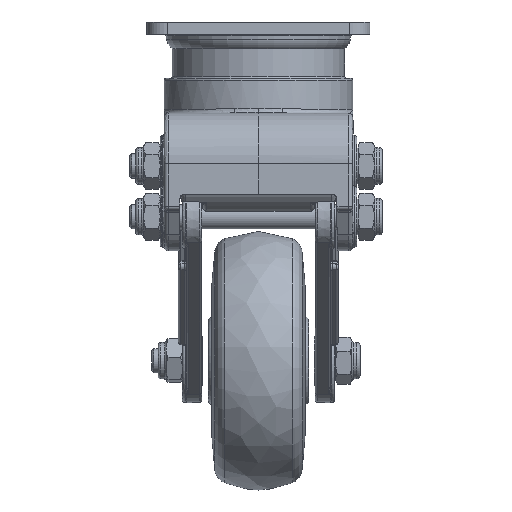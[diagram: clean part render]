
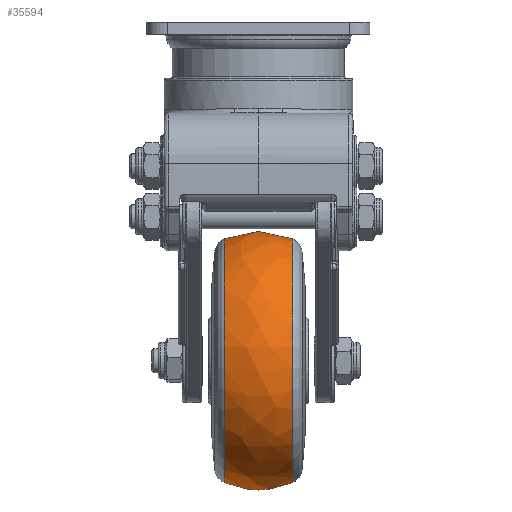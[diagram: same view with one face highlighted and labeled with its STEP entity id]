
A CAD part, left-side view. The second image highlights one B-rep face of the part: STEP entity #35594.
In plain terms, the highlighted free-form (B-spline) face has degree [2, 2] with [3, 9] control points.
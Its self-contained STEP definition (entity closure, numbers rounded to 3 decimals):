
#14=(
BOUNDED_SURFACE()
B_SPLINE_SURFACE(2,2,((#59060,#59061,#59062,#59063,#59064,#59065,#59066,
#59067,#59068),(#59069,#59070,#59071,#59072,#59073,#59074,#59075,#59076,
#59077),(#59078,#59079,#59080,#59081,#59082,#59083,#59084,#59085,#59086)),
 .UNSPECIFIED.,.F.,.T.,.F.)
B_SPLINE_SURFACE_WITH_KNOTS((3,3),(3,2,2,2,3),(-0.438,0.438),
(-3.142,-1.571,0.,1.571,3.142),
 .UNSPECIFIED.)
GEOMETRIC_REPRESENTATION_ITEM()
RATIONAL_B_SPLINE_SURFACE(((1.,0.707,1.,0.707,1.,
0.707,1.,0.707,1.),(0.906,0.64,
0.906,0.64,0.906,0.64,
0.906,0.64,0.906),(1.,0.707,
1.,0.707,1.,0.707,1.,0.707,1.)))
REPRESENTATION_ITEM('')
SURFACE()
);
#3115=FACE_OUTER_BOUND('',#5184,.T.);
#5184=EDGE_LOOP('',(#27847,#27848,#27849,#27850,#27851,#27852));
#6751=CIRCLE('',#37712,30.112);
#6752=CIRCLE('',#37713,30.112);
#6753=CIRCLE('',#37714,20.);
#6754=CIRCLE('',#37715,30.112);
#6755=CIRCLE('',#37716,30.112);
#15650=VERTEX_POINT('',#59087);
#15651=VERTEX_POINT('',#59088);
#15652=VERTEX_POINT('',#59091);
#15653=VERTEX_POINT('',#59093);
#19943=EDGE_CURVE('',#15650,#15651,#6751,.T.);
#19944=EDGE_CURVE('',#15651,#15650,#6752,.T.);
#19945=EDGE_CURVE('',#15651,#15652,#6753,.T.);
#19946=EDGE_CURVE('',#15652,#15653,#6754,.T.);
#19947=EDGE_CURVE('',#15653,#15652,#6755,.T.);
#27847=ORIENTED_EDGE('',*,*,#19943,.F.);
#27848=ORIENTED_EDGE('',*,*,#19944,.F.);
#27849=ORIENTED_EDGE('',*,*,#19945,.T.);
#27850=ORIENTED_EDGE('',*,*,#19946,.T.);
#27851=ORIENTED_EDGE('',*,*,#19947,.T.);
#27852=ORIENTED_EDGE('',*,*,#19945,.F.);
#35594=ADVANCED_FACE('',(#3115),#14,.F.);
#37712=AXIS2_PLACEMENT_3D('',#59089,#42887,#42888);
#37713=AXIS2_PLACEMENT_3D('',#59090,#42889,#42890);
#37714=AXIS2_PLACEMENT_3D('',#59092,#42891,#42892);
#37715=AXIS2_PLACEMENT_3D('',#59094,#42893,#42894);
#37716=AXIS2_PLACEMENT_3D('',#59095,#42895,#42896);
#42887=DIRECTION('center_axis',(0.,-1.,0.));
#42888=DIRECTION('ref_axis',(-0.282,0.,-0.959));
#42889=DIRECTION('center_axis',(0.,-1.,0.));
#42890=DIRECTION('ref_axis',(-0.282,0.,-0.959));
#42891=DIRECTION('center_axis',(-0.959,0.,
0.282));
#42892=DIRECTION('ref_axis',(0.282,0.,0.959));
#42893=DIRECTION('center_axis',(0.,-1.,0.));
#42894=DIRECTION('ref_axis',(-0.282,0.,-0.959));
#42895=DIRECTION('center_axis',(0.,-1.,0.));
#42896=DIRECTION('ref_axis',(-0.282,0.,-0.959));
#59060=CARTESIAN_POINT('Ctrl Pts',(71.878,8.482,-14.325));
#59061=CARTESIAN_POINT('Ctrl Pts',(42.987,8.482,-5.836));
#59062=CARTESIAN_POINT('Ctrl Pts',(34.499,8.482,-34.728));
#59063=CARTESIAN_POINT('Ctrl Pts',(26.01,8.482,-63.619));
#59064=CARTESIAN_POINT('Ctrl Pts',(54.902,8.482,-72.107));
#59065=CARTESIAN_POINT('Ctrl Pts',(83.793,8.482,-80.595));
#59066=CARTESIAN_POINT('Ctrl Pts',(92.281,8.482,-51.704));
#59067=CARTESIAN_POINT('Ctrl Pts',(100.769,8.482,-22.813));
#59068=CARTESIAN_POINT('Ctrl Pts',(71.878,8.482,-14.325));
#59069=CARTESIAN_POINT('Ctrl Pts',(72.998,0.,
-10.513));
#59070=CARTESIAN_POINT('Ctrl Pts',(40.295,0.,
-0.906));
#59071=CARTESIAN_POINT('Ctrl Pts',(30.687,0.,
-33.608));
#59072=CARTESIAN_POINT('Ctrl Pts',(21.08,0.,
-66.31));
#59073=CARTESIAN_POINT('Ctrl Pts',(53.782,0.,
-75.918));
#59074=CARTESIAN_POINT('Ctrl Pts',(86.484,0.,
-85.526));
#59075=CARTESIAN_POINT('Ctrl Pts',(96.092,0.,
-52.824));
#59076=CARTESIAN_POINT('Ctrl Pts',(105.7,0.,
-20.121));
#59077=CARTESIAN_POINT('Ctrl Pts',(72.998,0.,
-10.513));
#59078=CARTESIAN_POINT('Ctrl Pts',(71.878,-8.482,-14.325));
#59079=CARTESIAN_POINT('Ctrl Pts',(42.987,-8.482,-5.836));
#59080=CARTESIAN_POINT('Ctrl Pts',(34.499,-8.482,-34.728));
#59081=CARTESIAN_POINT('Ctrl Pts',(26.01,-8.482,-63.619));
#59082=CARTESIAN_POINT('Ctrl Pts',(54.902,-8.482,-72.107));
#59083=CARTESIAN_POINT('Ctrl Pts',(83.793,-8.482,-80.595));
#59084=CARTESIAN_POINT('Ctrl Pts',(92.281,-8.482,-51.704));
#59085=CARTESIAN_POINT('Ctrl Pts',(100.769,-8.482,-22.813));
#59086=CARTESIAN_POINT('Ctrl Pts',(71.878,-8.482,-14.325));
#59087=CARTESIAN_POINT('',(54.902,-8.482,-72.107));
#59088=CARTESIAN_POINT('',(71.878,-8.482,-14.325));
#59089=CARTESIAN_POINT('Origin',(63.39,-8.482,-43.216));
#59090=CARTESIAN_POINT('Origin',(63.39,-8.482,-43.216));
#59091=CARTESIAN_POINT('',(71.878,8.482,-14.325));
#59092=CARTESIAN_POINT('Origin',(66.772,0.,
-31.702));
#59093=CARTESIAN_POINT('',(54.902,8.482,-72.107));
#59094=CARTESIAN_POINT('Origin',(63.39,8.482,-43.216));
#59095=CARTESIAN_POINT('Origin',(63.39,8.482,-43.216));
